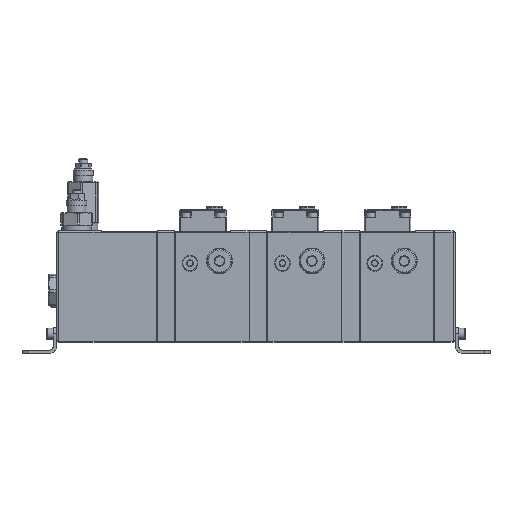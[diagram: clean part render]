
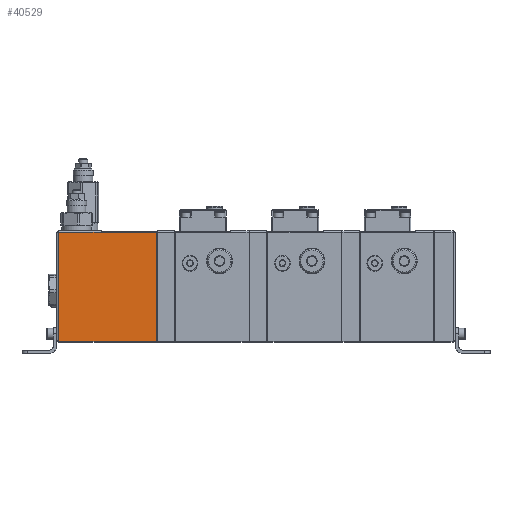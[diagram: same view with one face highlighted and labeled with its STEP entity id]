
A CAD part, left-side view. The second image highlights one B-rep face of the part: STEP entity #40529.
In plain terms, the highlighted planar face has unit normal (-1, 0, 0).
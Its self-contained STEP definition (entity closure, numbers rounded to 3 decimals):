
#2437=LINE('',#65064,#4550);
#2438=LINE('',#65070,#4551);
#2439=LINE('',#65072,#4552);
#2440=LINE('',#65074,#4553);
#4550=VECTOR('',#49213,1000.);
#4551=VECTOR('',#49220,1000.);
#4552=VECTOR('',#49221,1000.);
#4553=VECTOR('',#49222,1000.);
#5800=PLANE('',#43123);
#11530=ORIENTED_EDGE('',*,*,#17028,.T.);
#11531=ORIENTED_EDGE('',*,*,#17031,.T.);
#11532=ORIENTED_EDGE('',*,*,#17032,.F.);
#11533=ORIENTED_EDGE('',*,*,#17033,.T.);
#17028=EDGE_CURVE('',#20084,#20083,#2437,.T.);
#17031=EDGE_CURVE('',#20083,#20086,#2438,.T.);
#17032=EDGE_CURVE('',#20087,#20086,#2439,.T.);
#17033=EDGE_CURVE('',#20087,#20084,#2440,.T.);
#20083=VERTEX_POINT('',#65063);
#20084=VERTEX_POINT('',#65065);
#20086=VERTEX_POINT('',#65071);
#20087=VERTEX_POINT('',#65073);
#23269=EDGE_LOOP('',(#11530,#11531,#11532,#11533));
#25603=FACE_BOUND('',#23269,.T.);
#40529=ADVANCED_FACE('',(#25603),#5800,.F.);
#43123=AXIS2_PLACEMENT_3D('',#65069,#49218,#49219);
#49213=DIRECTION('',(0.,-1.,0.));
#49218=DIRECTION('',(1.,0.,0.));
#49219=DIRECTION('',(0.,0.,-1.));
#49220=DIRECTION('',(0.,0.,1.));
#49221=DIRECTION('',(0.,-1.,0.));
#49222=DIRECTION('',(0.,0.,-1.));
#65063=CARTESIAN_POINT('',(-50.,249.5,-49.));
#65064=CARTESIAN_POINT('',(-50.,339.,-49.));
#65065=CARTESIAN_POINT('',(-50.,336.811,-49.));
#65069=CARTESIAN_POINT('',(-50.,339.,49.));
#65070=CARTESIAN_POINT('',(-50.,249.5,49.));
#65071=CARTESIAN_POINT('',(-50.,249.5,49.));
#65072=CARTESIAN_POINT('',(-50.,339.,49.));
#65073=CARTESIAN_POINT('',(-50.,336.811,49.));
#65074=CARTESIAN_POINT('',(-50.,336.811,49.));
